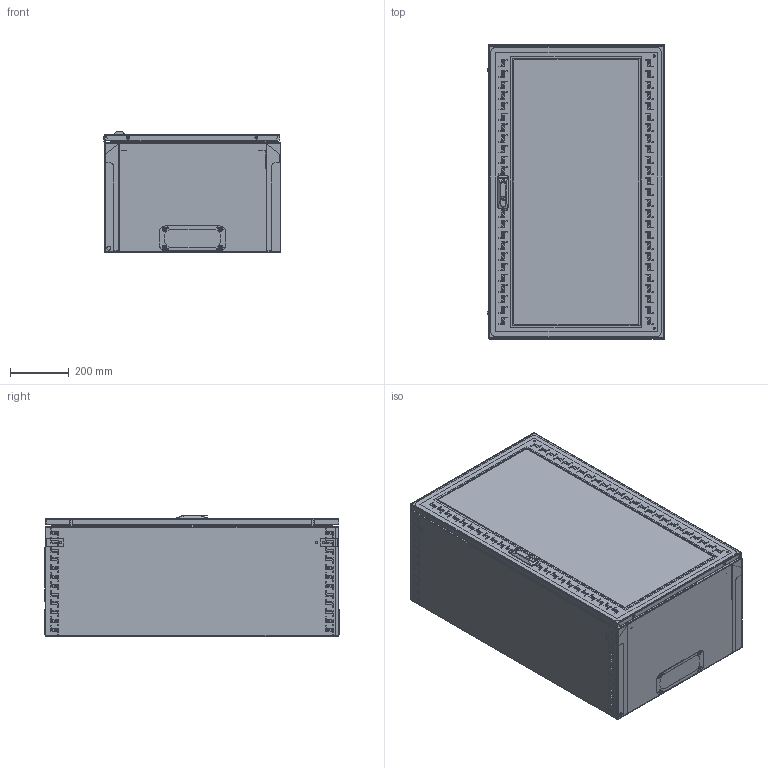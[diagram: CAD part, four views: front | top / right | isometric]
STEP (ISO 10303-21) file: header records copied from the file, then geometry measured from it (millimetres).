
FILE_DESCRIPTION (( 'STEP AP203' ), '1' );
FILE_NAME ('R5STI2040GS.STEP', '2019-07-16T12:10:19', ( '' ), ( '' ), 'SwSTEP 2.0', 'SolidWorks 2017', '' );
FILE_SCHEMA (( 'CONFIG_CONTROL_DESIGN' ));
Length unit declared in the file: millimetre
Products named in the file (40): AC00C398; RB.0048.02.01.0; RB.0374.01.02.0_-03 (1000x600); M6x12-DIN 6921_stright; Handle Mesan (part 3); RB.0374.05.00.0 捘_-07 (1000x600 glass); AC00C399; Ì6õ20-A5100001_straight; AC00C401_AC00C401; 4.8x13 DIN 7981 (R5A07)_straight; AC00C112; M4x8 GOST 17475-80 (DIN 965)_straight; Ì6õ12-A5100231_straight; MirrorRB.0374.00.01.0_-00 (400)<As Machined>; M6x10-A1100004_straight; PF 7,5x15 door STI_1000x0600; AC00C383; RB.0374.01.00.0 C縫-03 (1000x600x400); MirrorMirrorRB.0374.00.01.0_-00 (400)<As Machined><As Machined>; Handle 308 Mesan; Glass STI_1000x0600; AC00C061_AC00C061; RB.0374.03.01.0; AC00C380; RB.0374.06.00.0 捘_-07 (1000x600 glass); Glue STI_1000x0600; M6-DIN 6923 (CM100600)_straight; RB.0374.03.00.0 CÁ; R5STI2040GS; RB.0374.00.01.0_-00 (400); Handle Mesan (part 1); RB.0374.02.00.0 C縫-03 (1000x600x400); RB.0374.04.01.0; RB.0374.00.02.0_-03 (20U); Handle Mesan (part 2); RB.0374.05.01.0_-07 (1000x600 glass); RB.0374.04.00.0 CÁ; RB.0374.01.01.0_-03 (1000x600x400); RB.0374.00.02.0 mirror_-07 (20U); Catch Mesan
Assembly tree (102 placements, depth 4):
  R5STI2040GS
    RB.0374.02.00.0 C縫-03 (1000x600x400)
      RB.0374.01.00.0 C縫-03 (1000x600x400)
        RB.0374.01.01.0_-03 (1000x600x400)
        RB.0374.01.02.0_-03 (1000x600)
        Ì6õ20-A5100001_straight  x4
        Ì6õ12-A5100231_straight  x6
      RB.0374.03.00.0 CÁ
        RB.0374.03.01.0
        Ì6õ12-A5100231_straight  x4
      RB.0374.04.00.0 CÁ  x2
        RB.0374.04.01.0
        Ì6õ12-A5100231_straight
      RB.0048.02.01.0  x2
      AC00C399  x2
      M4x8 GOST 17475-80 (DIN 965)_straight  x4
      AC00C383  x2
      AC00C061_AC00C061  x2
      M6-DIN 6923 (CM100600)_straight  x12
    RB.0374.06.00.0 捘_-07 (1000x600 glass)
      RB.0374.05.00.0 捘_-07 (1000x600 glass)
        RB.0374.05.01.0_-07 (1000x600 glass)
        AC00C398  x2
        Ì6õ12-A5100231_straight  x2
      AC00C112  x4
      AC00C061_AC00C061  x2
      PF 7,5x15 door STI_1000x0600
      Glass STI_1000x0600
      Glue STI_1000x0600
      Handle 308 Mesan
        Handle Mesan (part 1)
        Handle Mesan (part 2)
        Catch Mesan
        Handle Mesan (part 3)
        4.8x13 DIN 7981 (R5A07)_straight  x3
        M6x10-A1100004_straight
    RB.0374.00.01.0_-00 (400)
    RB.0374.00.02.0_-03 (20U)
    RB.0374.00.02.0 mirror_-07 (20U)
    M6x12-DIN 6921_stright  x4
    M6-DIN 6923 (CM100600)_straight  x12
    AC00C401_AC00C401  x2
    MirrorRB.0374.00.01.0_-00 (400)<As Machined>  x2
    MirrorMirrorRB.0374.00.01.0_-00 (400)<As Machined><As Machined>
    AC00C380  x2
Bounding box: 603.87 x 1003 x 414.97 mm (x, y, z)
Volume: 5690351.9 mm3; surface area: 6076461.4 mm2
Topology: 142 solids, 142 shells, 6774 faces, 17713 edges, 11379 vertices
Faces by surface type: plane 4263, cylinder 1112, bspline 726, cone 473, torus 174, sphere 26
Entity records: 193447 total; most frequent: CARTESIAN_POINT 57877, ORIENTED_EDGE 27934, DIRECTION 23683, EDGE_CURVE 13967, VECTOR 11027, LINE 11027, VERTEX_POINT 9110, EDGE_LOOP 6659
